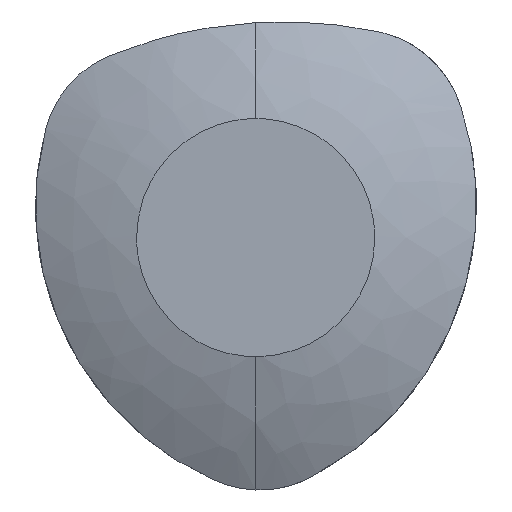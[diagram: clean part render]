
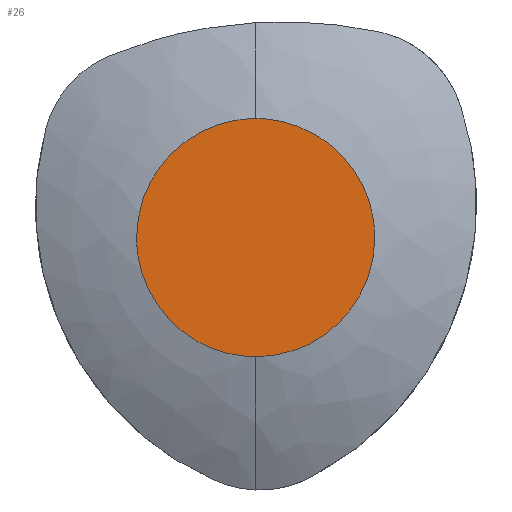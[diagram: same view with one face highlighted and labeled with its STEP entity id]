
A CAD part, left-side view. The second image highlights one B-rep face of the part: STEP entity #26.
In plain terms, the highlighted planar face has unit normal (-1, 0, 0).
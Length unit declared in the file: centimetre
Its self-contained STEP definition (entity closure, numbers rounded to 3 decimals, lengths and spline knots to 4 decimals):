
#26=ADVANCED_FACE('',(#76),#611,.T.);
#76=FACE_OUTER_BOUND('',#119,.T.);
#119=EDGE_LOOP('',(#174,#175));
#174=ORIENTED_EDGE('',*,*,#353,.F.);
#175=ORIENTED_EDGE('',*,*,#346,.F.);
#346=EDGE_CURVE('',#528,#531,#476,.T.);
#353=EDGE_CURVE('',#531,#528,#480,.T.);
#476=(
BOUNDED_CURVE()
B_SPLINE_CURVE(2,(#803,#804,#805,#806,#807),.UNSPECIFIED.,.F.,.F.)
B_SPLINE_CURVE_WITH_KNOTS((3,2,3),(0.,157.0796,314.1593),
 .UNSPECIFIED.)
CURVE()
GEOMETRIC_REPRESENTATION_ITEM()
RATIONAL_B_SPLINE_CURVE((1.,0.707,1.,0.707,1.))
REPRESENTATION_ITEM('')
);
#480=(
BOUNDED_CURVE()
B_SPLINE_CURVE(2,(#829,#830,#831,#832,#833),.UNSPECIFIED.,.F.,.F.)
B_SPLINE_CURVE_WITH_KNOTS((3,2,3),(314.1593,471.2389,628.3185),
 .UNSPECIFIED.)
CURVE()
GEOMETRIC_REPRESENTATION_ITEM()
RATIONAL_B_SPLINE_CURVE((1.,0.707,1.,0.707,1.))
REPRESENTATION_ITEM('')
);
#528=VERTEX_POINT('',#797);
#531=VERTEX_POINT('',#800);
#611=PLANE('',#712);
#712=AXIS2_PLACEMENT_3D('',#790,#751,$);
#751=DIRECTION('',(-1.,0.,0.));
#790=CARTESIAN_POINT('',(1830.5641,784.2751,127.2591));
#797=CARTESIAN_POINT('',(1830.5641,984.2851,227.2691));
#800=CARTESIAN_POINT('',(1830.5641,784.2851,227.2691));
#803=CARTESIAN_POINT('',(1830.5641,984.2851,227.2691));
#804=CARTESIAN_POINT('',(1830.5641,984.2851,327.2691));
#805=CARTESIAN_POINT('',(1830.5641,884.2851,327.2691));
#806=CARTESIAN_POINT('',(1830.5641,784.2851,327.2691));
#807=CARTESIAN_POINT('',(1830.5641,784.2851,227.2691));
#829=CARTESIAN_POINT('',(1830.5641,784.2851,227.2691));
#830=CARTESIAN_POINT('',(1830.5641,784.2851,127.2691));
#831=CARTESIAN_POINT('',(1830.5641,884.2851,127.2691));
#832=CARTESIAN_POINT('',(1830.5641,984.2851,127.2691));
#833=CARTESIAN_POINT('',(1830.5641,984.2851,227.2691));
